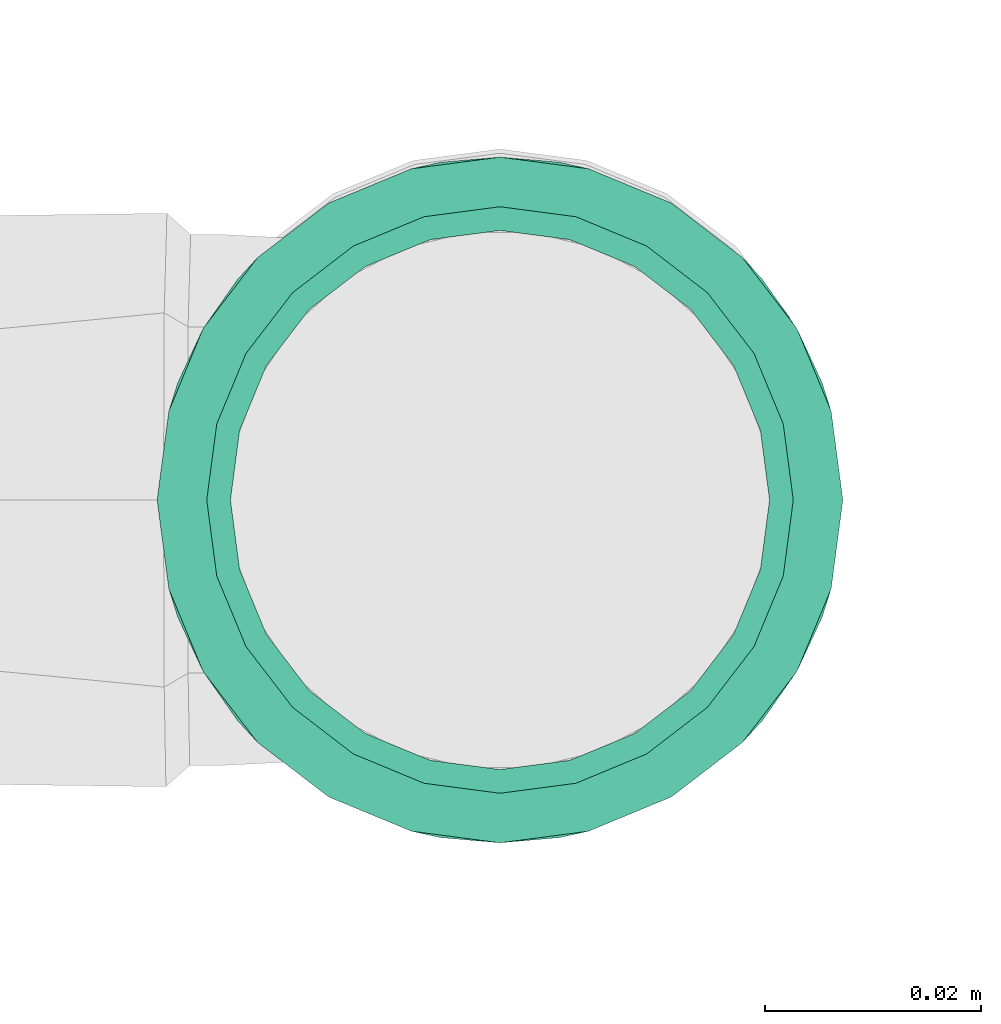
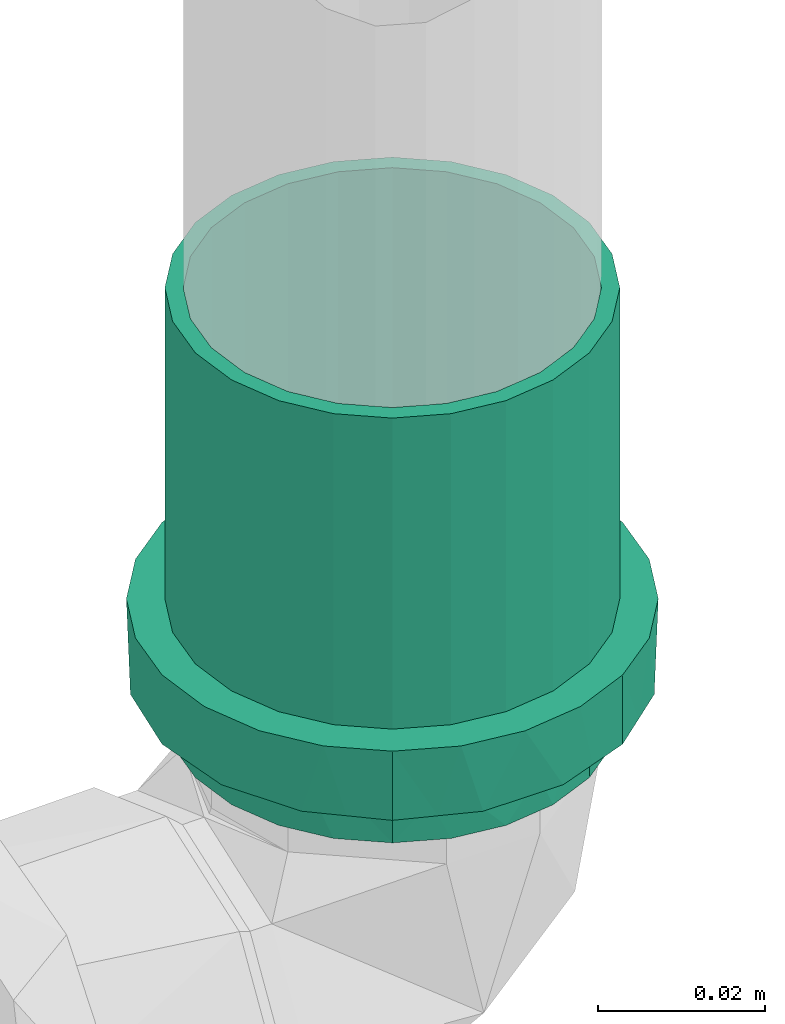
# One storey, part 99 of 589: 1 flow fitting.
"""IFC2X3 building model written with IfcOpenShell, lengths in millimetres."""

from ifc_helpers import new_model, entity, si_unit, converted_unit, derived_unit, direction, frame, origin, place, context, subcontext, project, spatial, faceted_brep, source, transform, mapped, material, type_object, type_shapes, element, save


model = new_model("IFC2X3")

# Units and contexts
model_context = context("Model", 3, precision=0.01, world=origin(), true_north=direction((6.123031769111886e-17, 1.0)))
body_context = subcontext(model_context, "Body", "Model", "MODEL_VIEW")
ifc_project = project(units=[si_unit("LENGTHUNIT", "METRE", prefix="MILLI"), si_unit("AREAUNIT", "SQUARE_METRE"), si_unit("VOLUMEUNIT", "CUBIC_METRE"), converted_unit("PLANEANGLEUNIT", "DEGREE", entity("IfcRatioMeasure", 0.017453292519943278), si_unit("PLANEANGLEUNIT", "RADIAN"), dimensions=[0, 0, 0, 0, 0, 0, 0]), si_unit("MASSUNIT", "GRAM", prefix="KILO"), derived_unit("MASSDENSITYUNIT", [(si_unit("MASSUNIT", "GRAM", prefix="KILO"), 1), (si_unit("LENGTHUNIT", "METRE"), -3)]), derived_unit("IONCONCENTRATIONUNIT", [(si_unit("MASSUNIT", "GRAM", prefix="KILO"), 1), (si_unit("LENGTHUNIT", "METRE"), -3)]), derived_unit("MOMENTOFINERTIAUNIT", [(si_unit("LENGTHUNIT", "METRE"), 4)]), si_unit("TIMEUNIT", "SECOND"), si_unit("FREQUENCYUNIT", "HERTZ"), si_unit("THERMODYNAMICTEMPERATUREUNIT", "DEGREE_CELSIUS"), derived_unit("THERMALTRANSMITTANCEUNIT", [(si_unit("MASSUNIT", "GRAM", prefix="KILO"), 1), (si_unit("THERMODYNAMICTEMPERATUREUNIT", "KELVIN"), -1), (si_unit("TIMEUNIT", "SECOND"), -3)]), derived_unit("THERMALCONDUCTANCEUNIT", [(si_unit("MASSUNIT", "GRAM", prefix="KILO"), 1), (si_unit("THERMODYNAMICTEMPERATUREUNIT", "KELVIN"), -1), (si_unit("TIMEUNIT", "SECOND"), -3), (si_unit("LENGTHUNIT", "METRE"), 1)]), derived_unit("VOLUMETRICFLOWRATEUNIT", [(si_unit("LENGTHUNIT", "METRE"), 3), (si_unit("TIMEUNIT", "SECOND"), -1)]), derived_unit("MASSFLOWRATEUNIT", [(si_unit("MASSUNIT", "GRAM", prefix="KILO"), 1), (si_unit("TIMEUNIT", "SECOND"), -1)]), derived_unit("ROTATIONALFREQUENCYUNIT", [(si_unit("TIMEUNIT", "SECOND"), -1)]), si_unit("ELECTRICCURRENTUNIT", "AMPERE"), si_unit("ELECTRICVOLTAGEUNIT", "VOLT"), si_unit("POWERUNIT", "WATT"), si_unit("FORCEUNIT", "NEWTON", prefix="KILO"), si_unit("ILLUMINANCEUNIT", "LUX"), si_unit("LUMINOUSFLUXUNIT", "LUMEN"), si_unit("LUMINOUSINTENSITYUNIT", "CANDELA"), derived_unit("USERDEFINED", [(si_unit("MASSUNIT", "GRAM", prefix="KILO"), -1), (si_unit("LENGTHUNIT", "METRE"), -2), (si_unit("TIMEUNIT", "SECOND"), 3), (si_unit("LUMINOUSFLUXUNIT", "LUMEN"), 1)]), derived_unit("USERDEFINED", [(si_unit("MASSUNIT", "GRAM", prefix="KILO"), 1), (si_unit("TIMEUNIT", "SECOND"), -3), (si_unit("LENGTHUNIT", "METRE"), 3), (si_unit("ELECTRICCURRENTUNIT", "AMPERE"), -2)]), derived_unit("SOUNDPOWERUNIT", [(si_unit("MASSUNIT", "GRAM", prefix="KILO"), 1), (si_unit("TIMEUNIT", "SECOND"), -3), (si_unit("LENGTHUNIT", "METRE"), 2)]), derived_unit("SOUNDPRESSUREUNIT", [(si_unit("MASSUNIT", "GRAM", prefix="KILO"), 1), (si_unit("LENGTHUNIT", "METRE"), -1), (si_unit("TIMEUNIT", "SECOND"), -2)]), derived_unit("LINEARVELOCITYUNIT", [(si_unit("LENGTHUNIT", "METRE"), 1), (si_unit("TIMEUNIT", "SECOND"), -1)]), si_unit("PRESSUREUNIT", "PASCAL"), derived_unit("USERDEFINED", [(si_unit("MASSUNIT", "GRAM", prefix="KILO"), 1), (si_unit("LENGTHUNIT", "METRE"), -2), (si_unit("TIMEUNIT", "SECOND"), -2)]), derived_unit("LINEARFORCEUNIT", [(si_unit("MASSUNIT", "GRAM", prefix="KILO"), 1), (si_unit("TIMEUNIT", "SECOND"), -2)]), derived_unit("PLANARFORCEUNIT", [(si_unit("MASSUNIT", "GRAM", prefix="KILO"), 1), (si_unit("LENGTHUNIT", "METRE"), -1), (si_unit("TIMEUNIT", "SECOND"), -2)]), derived_unit("SPECIFICHEATCAPACITYUNIT", [(si_unit("THERMODYNAMICTEMPERATUREUNIT", "KELVIN"), -1), (si_unit("LENGTHUNIT", "METRE"), 2), (si_unit("TIMEUNIT", "SECOND"), -2)]), derived_unit("HEATINGVALUEUNIT", [(si_unit("LENGTHUNIT", "METRE"), 2), (si_unit("TIMEUNIT", "SECOND"), -2)]), derived_unit("VAPORPERMEABILITYUNIT", [(si_unit("LENGTHUNIT", "METRE"), -1), (si_unit("TIMEUNIT", "SECOND"), 1)]), derived_unit("DYNAMICVISCOSITYUNIT", [(si_unit("MASSUNIT", "GRAM", prefix="KILO"), 1), (si_unit("TIMEUNIT", "SECOND"), -1), (si_unit("LENGTHUNIT", "METRE"), -1)]), derived_unit("THERMALEXPANSIONCOEFFICIENTUNIT", [(si_unit("THERMODYNAMICTEMPERATUREUNIT", "KELVIN"), -1)]), derived_unit("MODULUSOFELASTICITYUNIT", [(si_unit("MASSUNIT", "GRAM", prefix="KILO"), 1), (si_unit("LENGTHUNIT", "METRE"), -1), (si_unit("TIMEUNIT", "SECOND"), -2)]), derived_unit("ISOTHERMALMOISTURECAPACITYUNIT", [(si_unit("LENGTHUNIT", "METRE"), 3), (si_unit("MASSUNIT", "GRAM", prefix="KILO"), -1)]), derived_unit("MOISTUREDIFFUSIVITYUNIT", [(si_unit("TIMEUNIT", "SECOND"), -1), (si_unit("LENGTHUNIT", "METRE"), 2)])], contexts=[model_context])

# Site, building, storey
site_placement = place(None, origin())
site = spatial("IfcSite", under=ifc_project, at=site_placement, Name="Default", CompositionType="ELEMENT")
building_placement = place(site_placement, origin())
building = spatial("IfcBuilding", under=site, at=building_placement, CompositionType="ELEMENT")
storey_placement = place(building_placement, frame((0.0, 0.0, 100.0)))
storey = spatial("IfcBuildingStorey", under=building, at=storey_placement, Name="TÉRREO", CompositionType="ELEMENT", Elevation=100.0)

# Flow fitting
ifc_material = material(Name="PVC Série Normal")
pipe_fitting_type = type_object("IfcPipeFittingType", Name="PVC Esgoto_Luva Simples para Conexão_Rodrigo MEP:Standard", PredefinedType="NOTDEFINED", material=ifc_material)
shared_shape = source(origin(), body_context, "Body", "Brep", [
    faceted_brep([(16.599999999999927, 15.900000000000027, -27.53960784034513), (16.599999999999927, 22.485995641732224, -22.485995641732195), (16.599999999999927, 13.599999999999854, -23.555890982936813), (16.599999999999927, 7.039878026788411, -26.273182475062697), (16.599999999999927, 8.2304456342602, -30.71644127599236), (16.599999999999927, 19.233304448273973, -19.233304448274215), (16.599999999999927, 27.539607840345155, -15.899999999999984), (16.599999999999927, 23.55589098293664, -13.600000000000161), (16.599999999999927, 26.273182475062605, -7.03987802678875), (16.599999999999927, 30.716441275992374, -8.230445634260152), (16.599999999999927, 27.2, 0.0), (16.599999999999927, 31.8, 0.0), (16.599999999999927, 26.273182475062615, 7.0398780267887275), (16.599999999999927, 30.71644127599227, 8.23044563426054), (16.599999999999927, 23.555890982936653, 13.60000000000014), (16.599999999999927, 27.539607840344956, 15.900000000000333), (16.599999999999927, 19.233304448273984, 19.2333044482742), (16.599999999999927, 22.485995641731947, 22.48599564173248), (16.599999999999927, 13.599999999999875, 23.555890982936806), (16.599999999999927, 15.899999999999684, 27.53960784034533), (16.599999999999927, 7.039878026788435, 26.27318247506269), (16.599999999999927, 8.230445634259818, 30.716441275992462), (16.599999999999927, 0.0, 27.2), (16.599999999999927, 0.0, 31.8), (16.599999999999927, -7.039878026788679, 26.273182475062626), (16.599999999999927, -8.230445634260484, 30.716441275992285), (16.599999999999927, -13.600000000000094, 23.555890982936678), (16.599999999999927, -15.900000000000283, 27.53960784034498), (16.599999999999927, -19.23330444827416, 19.233304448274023), (16.599999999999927, -22.485995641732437, 22.48599564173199), (16.599999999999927, -23.55589098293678, 13.59999999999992), (16.599999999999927, -27.539607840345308, 15.899999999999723), (16.599999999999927, -30.71644127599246, 8.230445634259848), (16.599999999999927, -26.273182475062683, 7.039878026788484), (16.599999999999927, -31.8, 0.0), (16.599999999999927, -27.2, 0.0), (16.599999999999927, -30.71644127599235, -8.23044563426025), (16.599999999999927, -26.273182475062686, -7.03987802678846), (16.599999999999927, -27.53960784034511, -15.90000000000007), (16.599999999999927, -23.55589098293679, -13.599999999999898), (16.599999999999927, -22.485995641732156, -22.485995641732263), (16.599999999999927, -19.233304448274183, -19.233304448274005), (16.599999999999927, -15.899999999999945, -27.53960784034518), (16.599999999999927, -13.600000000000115, -23.555890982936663), (16.599999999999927, -8.230445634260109, -30.716441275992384), (16.599999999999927, -7.039878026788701, -26.273182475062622), (16.599999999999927, 0.0, -31.8), (16.599999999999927, 0.0, -27.2), (6.500000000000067, -10.708108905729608, 29.429219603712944), (6.500000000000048, -24.359073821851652, 20.44200387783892), (6.500000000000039, -27.120498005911, 15.6595386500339), (6.50000000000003, -29.881922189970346, 10.877073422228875), (6.500000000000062, -15.89769721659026, 27.540937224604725), (6.500000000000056, -20.128385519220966, 23.991470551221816), (6.50000000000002, -30.840961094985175, 5.438536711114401), (6.5000000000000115, -31.8, 0.0), (6.50000000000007, -5.518520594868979, 31.317501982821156), (6.500000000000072, 5.526376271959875, 31.316116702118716), (6.50000000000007, 0.00392783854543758, 31.316809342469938), (6.500000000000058, 20.134403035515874, 23.986420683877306), (6.500000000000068, 10.715490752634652, 29.42653259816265), (6.500000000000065, 15.904605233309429, 27.536948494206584), (6.500000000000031, 29.8846497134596, 10.869577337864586), (6.500000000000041, 27.12442527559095, 15.652735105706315), (6.5000000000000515, 24.364200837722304, 20.435892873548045), (6.5000000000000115, 31.8, 0.0), (6.499999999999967, 24.364200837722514, -20.435892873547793), (6.499999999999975, 27.12442527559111, -15.652735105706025), (6.499999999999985, 29.884649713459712, -10.869577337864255), (6.4999999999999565, 15.904605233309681, -27.53694849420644), (6.499999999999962, 20.134403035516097, -23.986420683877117), (6.499999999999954, 10.715490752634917, -29.42653259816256), (6.499999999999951, 5.526376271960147, -31.31611670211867), (6.499999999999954, -5.518520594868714, -31.317501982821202), (6.499999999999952, 0.003927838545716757, -31.316809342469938), (6.499999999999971, -20.128385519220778, -23.99147055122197), (6.499999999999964, -15.897697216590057, -27.54093722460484), (6.499999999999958, -10.70810890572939, -29.42921960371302), (6.499999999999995, -29.881922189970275, -10.877073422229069), (6.499999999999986, -27.12049800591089, -15.659538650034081), (6.499999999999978, -24.359073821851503, -20.442003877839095), (6.500000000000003, -30.840961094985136, -5.438536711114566), (6.499999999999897, -30.696173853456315, -6.259599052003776), (62.0, 13.600000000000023, -23.55589098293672), (62.0, 19.233304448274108, -19.23330444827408), (62.0, 12.499999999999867, -21.650635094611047), (62.0, 6.470476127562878, -24.14814565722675), (62.0, 7.039878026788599, -26.273182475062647), (62.0, 17.677669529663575, -17.677669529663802), (62.0, 23.55589098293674, -13.599999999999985), (62.0, 21.65063509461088, -12.50000000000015), (62.0, 24.148145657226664, -6.470476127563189), (62.0, 26.27318247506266, -7.039878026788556), (62.0, 25.0, 0.0), (62.0, 27.2, 0.0), (62.0, 24.148145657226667, 6.4704761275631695), (62.0, 26.273182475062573, 7.03987802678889), (62.0, 21.650635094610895, 12.500000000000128), (62.0, 23.555890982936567, 13.600000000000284), (62.0, 17.67766952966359, 17.67766952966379), (62.0, 19.233304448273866, 19.233304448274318), (62.0, 12.499999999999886, 21.650635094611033), (62.0, 13.59999999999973, 23.55589098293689), (62.0, 6.4704761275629, 24.14814565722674), (62.0, 7.039878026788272, 26.273182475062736), (62.0, 0.0, 25.0), (62.0, 0.0, 27.2), (62.0, -6.470476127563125, 24.148145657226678), (62.0, -7.039878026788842, 26.273182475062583), (62.0, -12.500000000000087, 21.650635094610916), (62.0, -13.600000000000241, 23.555890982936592), (62.0, -17.677669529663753, 17.677669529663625), (62.0, -19.233304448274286, 19.2333044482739), (62.0, -21.65063509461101, 12.499999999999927), (62.0, -23.555890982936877, 13.599999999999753), (62.0, -26.27318247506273, 7.039878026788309), (62.0, -24.14814565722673, 6.470476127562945), (62.0, -27.2, 0.0), (62.0, -25.0, 0.0), (62.0, -26.27318247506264, -7.0398780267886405), (62.0, -24.148145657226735, -6.470476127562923), (62.0, -23.5558909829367, -13.600000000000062), (62.0, -21.650635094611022, -12.499999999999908), (62.0, -19.233304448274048, -19.233304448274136), (62.0, -17.67766952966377, -17.677669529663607), (62.0, -13.599999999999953, -23.555890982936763), (62.0, -12.500000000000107, -21.650635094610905), (62.0, -7.039878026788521, -26.27318247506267), (62.0, -6.470476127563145, -24.148145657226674), (62.0, 0.0, -27.2), (62.0, 0.0, -25.0), (0.0, 12.499999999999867, -21.650635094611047), (0.0, 19.233304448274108, -19.23330444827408), (0.0, 13.600000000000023, -23.55589098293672), (0.0, 6.470476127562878, -24.14814565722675), (0.0, 17.677669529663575, -17.677669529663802), (0.0, 23.55589098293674, -13.599999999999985), (0.0, 21.65063509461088, -12.50000000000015), (0.0, 24.148145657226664, -6.470476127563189), (0.0, 26.27318247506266, -7.039878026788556), (0.0, 25.0, 0.0), (0.0, 27.2, 0.0), (0.0, 24.148145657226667, 6.4704761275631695), (0.0, 26.273182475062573, 7.03987802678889), (0.0, 21.650635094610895, 12.500000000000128), (0.0, 23.555890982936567, 13.600000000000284), (0.0, 17.67766952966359, 17.67766952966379), (0.0, 19.233304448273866, 19.233304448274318), (0.0, 12.499999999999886, 21.650635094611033), (0.0, 13.59999999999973, 23.55589098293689), (0.0, 6.4704761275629, 24.14814565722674), (0.0, 7.039878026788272, 26.273182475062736), (0.0, 0.0, 25.0), (0.0, 0.0, 27.2), (0.0, -6.470476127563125, 24.148145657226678), (0.0, -7.039878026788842, 26.273182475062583), (0.0, -12.500000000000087, 21.650635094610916), (0.0, -13.600000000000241, 23.555890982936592), (0.0, -17.677669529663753, 17.677669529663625), (0.0, -19.233304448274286, 19.2333044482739), (0.0, -21.65063509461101, 12.499999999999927), (0.0, -23.555890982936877, 13.599999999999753), (0.0, -26.27318247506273, 7.039878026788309), (0.0, -24.14814565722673, 6.470476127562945), (0.0, -27.2, 0.0), (0.0, -25.0, 0.0), (0.0, -26.27318247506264, -7.0398780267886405), (0.0, -24.148145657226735, -6.470476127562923), (0.0, -23.5558909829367, -13.600000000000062), (0.0, -21.650635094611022, -12.499999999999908), (0.0, -19.233304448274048, -19.233304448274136), (0.0, -17.67766952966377, -17.677669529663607), (0.0, -13.599999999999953, -23.555890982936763), (0.0, -12.500000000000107, -21.650635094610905), (0.0, -7.039878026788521, -26.27318247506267), (0.0, -6.470476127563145, -24.148145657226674), (0.0, 0.0, -27.2), (0.0, 0.0, -25.0), (0.0, 7.039878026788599, -26.273182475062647), (5.300000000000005, -26.37968999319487, 4.651830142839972), (5.299999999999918, -26.25584678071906, 5.354122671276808), (5.300000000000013, -25.559379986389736, 9.303660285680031), (5.300000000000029, -20.835434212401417, 17.48498444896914), (5.300000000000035, -17.216732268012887, 20.521006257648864), (5.300000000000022, -23.19740709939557, 13.394322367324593), (5.3000000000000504, -4.720244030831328, 26.787297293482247), (5.300000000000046, -9.15913717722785, 25.172162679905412), (5.299999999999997, -27.2, 0.0), (5.300000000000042, -13.598030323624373, 23.557028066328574), (5.300000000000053, 9.165451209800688, 25.169864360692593), (5.300000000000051, 13.603939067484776, 23.55361632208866), (5.300000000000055, 4.7269633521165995, 26.786112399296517), (5.300000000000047, 17.221879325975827, 20.516686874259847), (5.300000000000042, 20.839819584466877, 17.479757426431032), (5.3000000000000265, 25.56171296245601, 9.297248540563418), (5.299999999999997, 27.2, 0.0), (5.3000000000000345, 23.20076627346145, 13.388502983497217), (5.300000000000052, 0.003359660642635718, 26.786704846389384), (5.299999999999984, 25.56171296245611, -9.29724854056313), (5.299999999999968, 20.839819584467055, -17.47975742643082), (5.2999999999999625, 17.22187932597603, -20.516686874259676), (5.299999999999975, 23.200766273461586, -13.388502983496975), (5.299999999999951, 4.726963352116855, -26.78611239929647), (5.2999999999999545, 9.165451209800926, -25.169864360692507), (5.299999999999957, 13.603939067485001, -23.553616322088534), (5.29999999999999, -26.379689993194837, -4.651830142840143), (5.299999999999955, -9.159137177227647, -25.17216267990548), (5.299999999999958, -13.5980303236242, -23.55702806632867), (5.299999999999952, -4.720244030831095, -26.787297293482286), (5.299999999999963, -17.216732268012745, -20.52100625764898), (5.299999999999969, -20.83543421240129, -17.484984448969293), (5.299999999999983, -25.559379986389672, -9.303660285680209), (5.299999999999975, -23.197407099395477, -13.394322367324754), (5.299999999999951, 0.003359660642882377, -26.78670484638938), (39.0, -25.0, 0.0), (39.0, 25.0, 0.0)], [[[0, 1, 2]], [[0, 2, 3]], [[3, 4, 0]], [[2, 1, 5]], [[6, 5, 1]], [[7, 5, 6]], [[8, 7, 6]], [[8, 6, 9]], [[8, 9, 10]], [[10, 9, 11]], [[12, 10, 11]], [[12, 11, 13]], [[14, 12, 13]], [[14, 13, 15]], [[16, 14, 15]], [[15, 17, 16]], [[17, 18, 16]], [[17, 19, 18]], [[18, 19, 20]], [[21, 20, 19]], [[20, 21, 22]], [[22, 21, 23]], [[22, 23, 24]], [[24, 23, 25]], [[24, 25, 26]], [[27, 26, 25]], [[27, 28, 26]], [[28, 27, 29]], [[30, 28, 29]], [[31, 30, 29]], [[32, 30, 31]], [[33, 30, 32]], [[33, 32, 34]], [[35, 33, 34]], [[36, 35, 34]], [[36, 37, 35]], [[37, 36, 38]], [[39, 37, 38]], [[39, 38, 40]], [[39, 40, 41]], [[40, 42, 41]], [[41, 42, 43]], [[43, 42, 44]], [[44, 45, 43]], [[46, 45, 44]], [[4, 47, 46]], [[46, 47, 45]], [[4, 3, 47]], [[48, 27, 25]], [[31, 29, 49]], [[31, 49, 50, 51]], [[52, 53, 27]], [[32, 51, 54]], [[54, 55, 34]], [[54, 34, 32]], [[25, 56, 48]], [[49, 29, 53]], [[23, 57, 58, 56]], [[59, 19, 17]], [[27, 53, 29]], [[48, 52, 27]], [[31, 51, 32]], [[57, 23, 21]], [[60, 19, 61]], [[15, 62, 63, 64]], [[19, 60, 21]], [[15, 13, 62]], [[17, 64, 59]], [[57, 21, 60]], [[23, 56, 25]], [[15, 64, 17]], [[13, 65, 62]], [[13, 11, 65]], [[59, 61, 19]], [[65, 11, 9]], [[6, 1, 66]], [[6, 66, 67, 68]], [[69, 70, 0]], [[68, 65, 9]], [[71, 69, 0]], [[71, 0, 4]], [[4, 72, 71]], [[66, 1, 70]], [[46, 73, 74, 72]], [[75, 76, 42]], [[0, 70, 1]], [[75, 42, 40]], [[6, 68, 9]], [[73, 46, 44]], [[77, 42, 76]], [[38, 78, 79, 80]], [[42, 77, 44]], [[38, 36, 78]], [[40, 80, 75]], [[73, 44, 77]], [[46, 72, 4]], [[38, 80, 40]], [[36, 81, 82, 78]], [[55, 81, 34]], [[34, 81, 36]], [[83, 84, 85]], [[83, 85, 86]], [[86, 87, 83]], [[85, 84, 88]], [[89, 88, 84]], [[88, 89, 90]], [[90, 89, 91]], [[92, 91, 89]], [[92, 93, 91]], [[93, 92, 94]], [[95, 93, 94]], [[94, 96, 95]], [[95, 96, 97]], [[98, 97, 96]], [[97, 98, 99]], [[99, 98, 100]], [[101, 99, 100]], [[100, 102, 101]], [[101, 102, 103]], [[104, 103, 102]], [[103, 104, 105]], [[105, 104, 106]], [[105, 106, 107]], [[107, 106, 108]], [[107, 108, 109]], [[110, 109, 108]], [[110, 111, 109]], [[111, 110, 112]], [[112, 113, 111]], [[114, 113, 112]], [[113, 114, 115]], [[115, 116, 113]], [[117, 116, 115]], [[117, 118, 116]], [[119, 118, 117]], [[119, 120, 118]], [[120, 119, 121]], [[121, 122, 120]], [[122, 121, 123]], [[122, 123, 124]], [[123, 125, 124]], [[124, 125, 126]], [[126, 125, 127]], [[127, 128, 126]], [[129, 128, 127]], [[87, 130, 129]], [[129, 130, 128]], [[87, 86, 130]], [[131, 132, 133]], [[134, 131, 133]], [[135, 132, 131]], [[132, 135, 136]], [[137, 136, 135]], [[138, 136, 137]], [[136, 138, 139]], [[138, 140, 139]], [[141, 139, 140]], [[141, 140, 142]], [[142, 143, 141]], [[144, 143, 142]], [[143, 144, 145]], [[146, 145, 144]], [[147, 145, 146]], [[147, 146, 148]], [[148, 149, 147]], [[150, 149, 148]], [[149, 150, 151]], [[152, 151, 150]], [[153, 151, 152]], [[154, 153, 152]], [[155, 153, 154]], [[156, 155, 154]], [[155, 156, 157]], [[156, 158, 157]], [[159, 157, 158]], [[158, 160, 159]], [[159, 160, 161]], [[162, 161, 160]], [[160, 163, 162]], [[162, 163, 164]], [[163, 165, 164]], [[164, 165, 166]], [[165, 167, 166]], [[168, 166, 167]], [[167, 169, 168]], [[170, 168, 169]], [[171, 170, 169]], [[171, 172, 170]], [[173, 172, 171]], [[174, 172, 173]], [[173, 175, 174]], [[174, 175, 176]], [[175, 177, 176]], [[177, 134, 178]], [[176, 177, 178]], [[133, 178, 134]], [[162, 179, 180, 181]], [[159, 182, 183]], [[182, 161, 181, 184]], [[185, 155, 186]], [[161, 162, 181]], [[187, 179, 164]], [[183, 188, 157]], [[183, 157, 159]], [[161, 182, 159]], [[189, 190, 149]], [[189, 149, 151]], [[157, 188, 186]], [[157, 186, 155]], [[153, 155, 185]], [[164, 179, 162]], [[151, 191, 189]], [[147, 192, 193]], [[143, 194, 195]], [[194, 145, 193, 196]], [[143, 195, 141]], [[10, 12, 96, 94]], [[149, 192, 147]], [[153, 185, 197, 191]], [[153, 191, 151]], [[145, 147, 193]], [[190, 192, 149]], [[145, 194, 143]], [[139, 195, 198]], [[132, 199, 200]], [[199, 136, 198, 201]], [[202, 178, 203]], [[136, 139, 198]], [[139, 141, 195]], [[92, 8, 10, 94]], [[133, 203, 178]], [[200, 204, 133]], [[136, 199, 132]], [[205, 164, 166]], [[206, 207, 172]], [[133, 204, 203]], [[206, 172, 174]], [[176, 178, 202]], [[200, 133, 132]], [[174, 208, 206]], [[170, 209, 210]], [[166, 211, 205]], [[211, 168, 210, 212]], [[168, 211, 166]], [[172, 209, 170]], [[176, 202, 213, 208]], [[176, 208, 174]], [[168, 170, 210]], [[207, 209, 172]], [[205, 187, 164]], [[116, 118, 214, 165, 163]], [[156, 109, 111, 158]], [[111, 113, 160, 158]], [[113, 116, 163, 160]], [[107, 109, 156, 154]], [[154, 152, 105, 107]], [[103, 105, 152, 150]], [[103, 150, 148, 101]], [[142, 95, 97, 144]], [[97, 99, 146, 144]], [[99, 101, 148, 146]], [[93, 95, 142, 140, 215]], [[215, 140, 138, 91, 93]], [[135, 131, 85, 88]], [[90, 91, 138, 137]], [[90, 137, 135, 88]], [[86, 85, 131, 134]], [[134, 177, 130, 86]], [[128, 130, 177, 175]], [[128, 175, 173, 126]], [[167, 120, 122, 169]], [[122, 124, 171, 169]], [[124, 126, 173, 171]], [[118, 120, 167, 165, 214]], [[211, 78, 82, 81, 55, 187, 205]], [[79, 78, 211, 212, 210, 80]], [[75, 80, 210, 209, 207, 76]], [[207, 206, 208, 73, 77, 76]], [[213, 202, 72, 74, 73, 208]], [[203, 204, 69, 71, 72, 202]], [[198, 195, 65, 68]], [[199, 201, 198, 68, 67, 66]], [[204, 200, 199, 66, 70, 69]], [[195, 194, 62, 65]], [[197, 185, 56, 58, 57, 191]], [[63, 62, 194, 196, 193, 64]], [[57, 60, 61, 190, 189, 191]], [[193, 192, 190, 61, 59, 64]], [[48, 56, 185, 186, 188, 52]], [[187, 55, 54, 51, 181, 180, 179]], [[182, 184, 181, 51, 50, 49]], [[188, 183, 182, 49, 53, 52]], [[30, 33, 115, 114]], [[117, 115, 33, 35]], [[26, 28, 112, 110]], [[114, 112, 28, 30]], [[24, 26, 110, 108]], [[108, 106, 22, 24]], [[18, 20, 104, 102]], [[100, 16, 18, 102]], [[12, 14, 98, 96]], [[100, 98, 14, 16]], [[104, 20, 22, 106]], [[89, 7, 8, 92]], [[83, 87, 3, 2]], [[7, 89, 84, 5]], [[83, 2, 5, 84]], [[87, 129, 47, 3]], [[43, 45, 127, 125]], [[123, 41, 43, 125]], [[37, 39, 121, 119]], [[123, 121, 39, 41]], [[35, 37, 119, 117]], [[127, 45, 47, 129]]]),
])
type_shapes(pipe_fitting_type, [shared_shape])
flow_fitting_placement = place(storey_placement, frame((-2699.894944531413, -655.7850719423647, -37.04320158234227), z_axis=(0.0, -1.0, 0.0), x_axis=(0.0, 0.0, 1.0)))
element("IfcFlowFitting", 1, at=flow_fitting_placement, inside=storey, type_object=pipe_fitting_type, material=ifc_material, Name="PVC Esgoto_Luva Simples para Conexão_Rodrigo MEP:Standard", ObjectType="PVC Esgoto_Luva Simples para Conexão_Rodrigo MEP:Standard", context=body_context, shape_type="MappedRepresentation", body=[
    mapped(shared_shape, transform((0.0, 0.0, 0.0), scale=1.0)),
])

save(model, "model.ifc")
